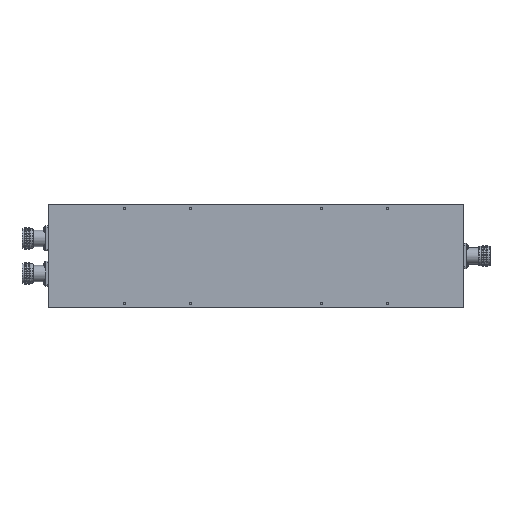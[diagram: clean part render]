
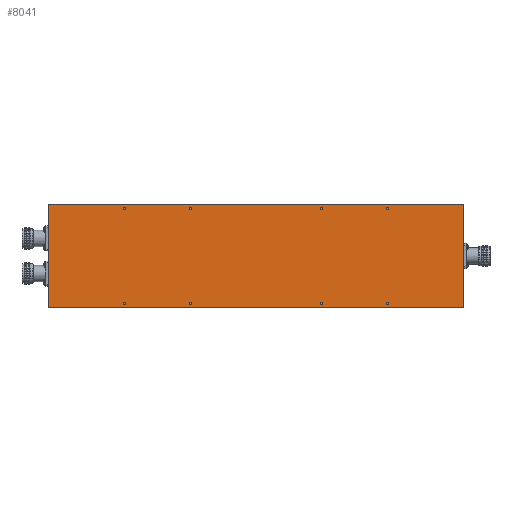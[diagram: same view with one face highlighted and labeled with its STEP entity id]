
A CAD part, top view. The second image highlights one B-rep face of the part: STEP entity #8041.
In plain terms, the highlighted planar face has unit normal (0, 0, 1).
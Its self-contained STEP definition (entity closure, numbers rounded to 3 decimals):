
#251=PLANE('',#8631);
#546=CIRCLE('',#8632,0.784);
#547=CIRCLE('',#8633,0.784);
#548=CIRCLE('',#8634,0.784);
#549=CIRCLE('',#8635,0.784);
#550=CIRCLE('',#8636,0.784);
#551=CIRCLE('',#8637,0.784);
#552=CIRCLE('',#8638,0.784);
#553=CIRCLE('',#8639,0.784);
#832=LINE('',#11525,#1047);
#836=LINE('',#11533,#1051);
#841=LINE('',#11633,#1056);
#843=LINE('',#11727,#1058);
#1047=VECTOR('',#9353,1000.);
#1051=VECTOR('',#9359,1000.);
#1056=VECTOR('',#9456,1000.);
#1058=VECTOR('',#9554,1000.);
#1571=ORIENTED_EDGE('',*,*,#2864,.T.);
#1572=ORIENTED_EDGE('',*,*,#2865,.T.);
#1573=ORIENTED_EDGE('',*,*,#2866,.T.);
#1574=ORIENTED_EDGE('',*,*,#2867,.T.);
#1575=ORIENTED_EDGE('',*,*,#2868,.T.);
#1576=ORIENTED_EDGE('',*,*,#2869,.T.);
#1577=ORIENTED_EDGE('',*,*,#2870,.T.);
#1578=ORIENTED_EDGE('',*,*,#2871,.T.);
#1579=ORIENTED_EDGE('',*,*,#2756,.F.);
#1580=ORIENTED_EDGE('',*,*,#2653,.F.);
#1581=ORIENTED_EDGE('',*,*,#2707,.F.);
#1582=ORIENTED_EDGE('',*,*,#2657,.F.);
#2653=EDGE_CURVE('',#3306,#3307,#832,.T.);
#2657=EDGE_CURVE('',#3309,#3310,#836,.T.);
#2707=EDGE_CURVE('',#3310,#3306,#841,.T.);
#2756=EDGE_CURVE('',#3307,#3309,#843,.T.);
#2864=EDGE_CURVE('',#3491,#3491,#546,.T.);
#2865=EDGE_CURVE('',#3492,#3492,#547,.T.);
#2866=EDGE_CURVE('',#3493,#3493,#548,.T.);
#2867=EDGE_CURVE('',#3494,#3494,#549,.T.);
#2868=EDGE_CURVE('',#3495,#3495,#550,.T.);
#2869=EDGE_CURVE('',#3496,#3496,#551,.T.);
#2870=EDGE_CURVE('',#3497,#3497,#552,.T.);
#2871=EDGE_CURVE('',#3498,#3498,#553,.T.);
#3306=VERTEX_POINT('',#11524);
#3307=VERTEX_POINT('',#11526);
#3309=VERTEX_POINT('',#11532);
#3310=VERTEX_POINT('',#11534);
#3491=VERTEX_POINT('',#11962);
#3492=VERTEX_POINT('',#11964);
#3493=VERTEX_POINT('',#11966);
#3494=VERTEX_POINT('',#11968);
#3495=VERTEX_POINT('',#11970);
#3496=VERTEX_POINT('',#11972);
#3497=VERTEX_POINT('',#11974);
#3498=VERTEX_POINT('',#11976);
#4062=EDGE_LOOP('',(#1571));
#4063=EDGE_LOOP('',(#1572));
#4064=EDGE_LOOP('',(#1573));
#4065=EDGE_LOOP('',(#1574));
#4066=EDGE_LOOP('',(#1575));
#4067=EDGE_LOOP('',(#1576));
#4068=EDGE_LOOP('',(#1577));
#4069=EDGE_LOOP('',(#1578));
#4070=EDGE_LOOP('',(#1579,#1580,#1581,#1582));
#4949=FACE_BOUND('',#4062,.T.);
#4950=FACE_BOUND('',#4063,.T.);
#4951=FACE_BOUND('',#4064,.T.);
#4952=FACE_BOUND('',#4065,.T.);
#4953=FACE_BOUND('',#4066,.T.);
#4954=FACE_BOUND('',#4067,.T.);
#4955=FACE_BOUND('',#4068,.T.);
#4956=FACE_BOUND('',#4069,.T.);
#4957=FACE_BOUND('',#4070,.T.);
#8041=ADVANCED_FACE('',(#4949,#4950,#4951,#4952,#4953,#4954,#4955,#4956,
#4957),#251,.F.);
#8631=AXIS2_PLACEMENT_3D('',#11960,#9760,#9761);
#8632=AXIS2_PLACEMENT_3D('',#11961,#9762,#9763);
#8633=AXIS2_PLACEMENT_3D('',#11963,#9764,#9765);
#8634=AXIS2_PLACEMENT_3D('',#11965,#9766,#9767);
#8635=AXIS2_PLACEMENT_3D('',#11967,#9768,#9769);
#8636=AXIS2_PLACEMENT_3D('',#11969,#9770,#9771);
#8637=AXIS2_PLACEMENT_3D('',#11971,#9772,#9773);
#8638=AXIS2_PLACEMENT_3D('',#11973,#9774,#9775);
#8639=AXIS2_PLACEMENT_3D('',#11975,#9776,#9777);
#9353=DIRECTION('',(-1.,0.,0.));
#9359=DIRECTION('',(1.,0.,0.));
#9456=DIRECTION('',(0.,-1.,0.));
#9554=DIRECTION('',(0.,1.,0.));
#9760=DIRECTION('',(0.,0.,-1.));
#9761=DIRECTION('',(-1.,0.,0.));
#9762=DIRECTION('',(0.,0.,-1.));
#9763=DIRECTION('',(0.,-1.,0.));
#9764=DIRECTION('',(0.,0.,-1.));
#9765=DIRECTION('',(0.,-1.,0.));
#9766=DIRECTION('',(0.,0.,-1.));
#9767=DIRECTION('',(0.,-1.,0.));
#9768=DIRECTION('',(0.,0.,-1.));
#9769=DIRECTION('',(0.,-1.,0.));
#9770=DIRECTION('',(0.,0.,-1.));
#9771=DIRECTION('',(0.,-1.,0.));
#9772=DIRECTION('',(0.,0.,-1.));
#9773=DIRECTION('',(0.,-1.,0.));
#9774=DIRECTION('',(0.,0.,-1.));
#9775=DIRECTION('',(0.,-1.,0.));
#9776=DIRECTION('',(0.,0.,-1.));
#9777=DIRECTION('',(0.,-1.,0.));
#11524=CARTESIAN_POINT('',(146.235,-35.85,5.));
#11525=CARTESIAN_POINT('',(146.235,-35.85,5.));
#11526=CARTESIAN_POINT('',(-144.235,-35.85,5.));
#11532=CARTESIAN_POINT('',(-144.235,35.85,5.));
#11533=CARTESIAN_POINT('',(-144.235,35.85,5.));
#11534=CARTESIAN_POINT('',(146.235,35.85,5.));
#11633=CARTESIAN_POINT('',(146.235,35.85,5.));
#11727=CARTESIAN_POINT('',(-144.235,-35.85,5.));
#11960=CARTESIAN_POINT('',(0.,0.,5.));
#11961=CARTESIAN_POINT('',(93.,-33.35,5.));
#11962=CARTESIAN_POINT('',(93.,-34.134,5.));
#11963=CARTESIAN_POINT('',(47.,-33.35,5.));
#11964=CARTESIAN_POINT('',(47.,-34.134,5.));
#11965=CARTESIAN_POINT('',(-45.,-33.35,5.));
#11966=CARTESIAN_POINT('',(-45.,-34.134,5.));
#11967=CARTESIAN_POINT('',(-91.,-33.35,5.));
#11968=CARTESIAN_POINT('',(-91.,-34.134,5.));
#11969=CARTESIAN_POINT('',(-91.,33.35,5.));
#11970=CARTESIAN_POINT('',(-91.,32.567,5.));
#11971=CARTESIAN_POINT('',(93.,33.35,5.));
#11972=CARTESIAN_POINT('',(93.,32.567,5.));
#11973=CARTESIAN_POINT('',(47.,33.35,5.));
#11974=CARTESIAN_POINT('',(47.,32.567,5.));
#11975=CARTESIAN_POINT('',(-45.,33.35,5.));
#11976=CARTESIAN_POINT('',(-45.,32.567,5.));
